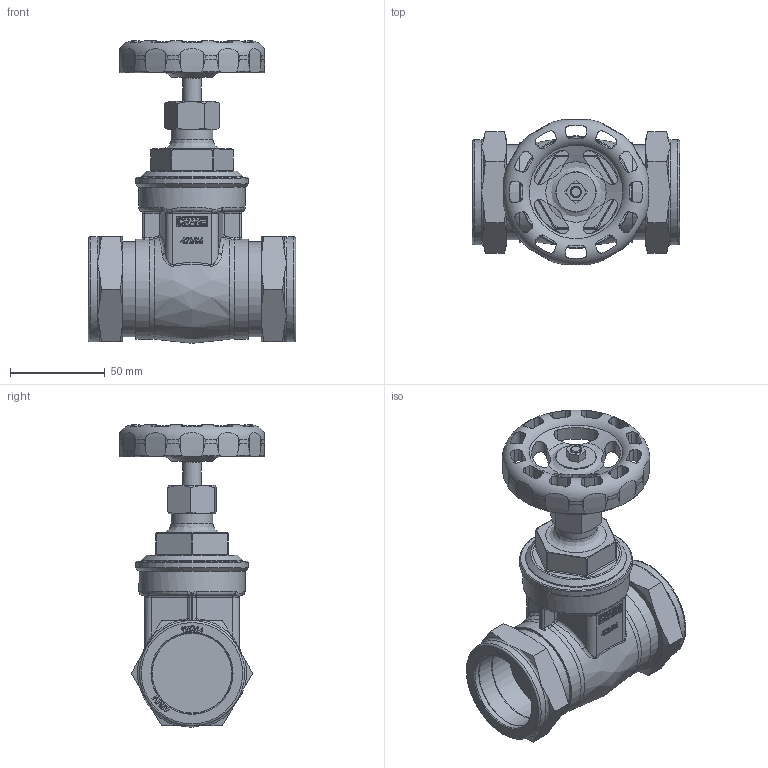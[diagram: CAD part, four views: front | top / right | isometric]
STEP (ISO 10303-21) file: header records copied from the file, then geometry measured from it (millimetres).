
FILE_DESCRIPTION((''),'2;1');
FILE_NAME('P:\Fastrack\53972_CRANE 3D\Gate Valves\Work Space\Handwheel\D155C_42mm\D155C_42mm.stp','2011-03-11T15:15:26',('btaylor'),(''),'Autodesk Inventor 2008','Autodesk Inventor 2008','');
FILE_SCHEMA(('AUTOMOTIVE_DESIGN { 1 0 10303 214 1 1 1 1 }'));
Length unit declared in the file: millimetre
Products named in the file (1): D155C_42mm
Bounding box: 109.56 x 76.54 x 159.55 mm (x, y, z)
Volume: 322389.9 mm3; surface area: 67992.9 mm2
Topology: 1 solids, 3 shells, 1097 faces, 2999 edges, 1945 vertices
Faces by surface type: plane 533, bspline 256, cylinder 224, cone 62, torus 22
Full cylindrical faces by diameter (mm): 6 x2, 10 x1, 21 x1, 22 x1, 42 x2, 42.3 x4, 50 x4, 52.6 x2, 53 x1, 55.4 x2, 56 x1, 59.5 x1
Entity records: 45932 total; most frequent: CARTESIAN_POINT 19685, ORIENTED_EDGE 5794, DIRECTION 4166, EDGE_CURVE 2897, VERTEX_POINT 1909, VECTOR 1592, LINE 1592, AXIS2_PLACEMENT_3D 1287
